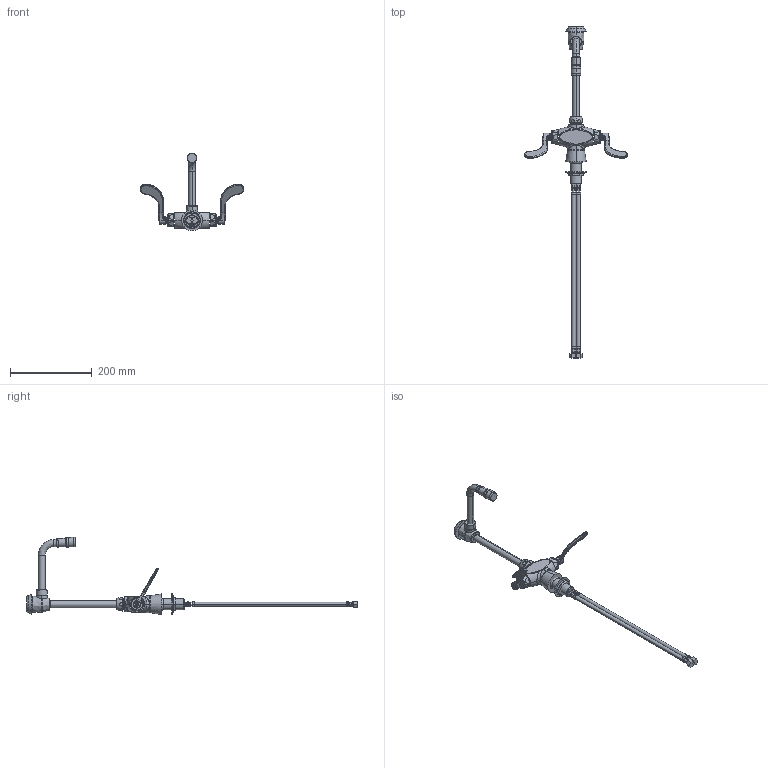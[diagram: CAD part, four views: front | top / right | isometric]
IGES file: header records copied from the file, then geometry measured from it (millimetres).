
Start section:  PTC IGES file: 930-k2e29-317xkcp_REV103013.igs
Global section: file name: 930-k2e29-317xkcp_REV103013.igs; native system: Creo Parametric by Parametric Technology Corporation; preprocessor: 2013050; author: SDmitruk; organization: Unknown; date: 20131030.132746; units: inch
Bounding box: 254 x 810.88 x 188.82 mm (x, y, z)
Surface area: 140394.4 mm2 (no closed solid volume)
Topology: 0 solids, 0 shells, 418 faces, 3138 edges, 4196 vertices
Faces by surface type: revolution 221, bspline 197
